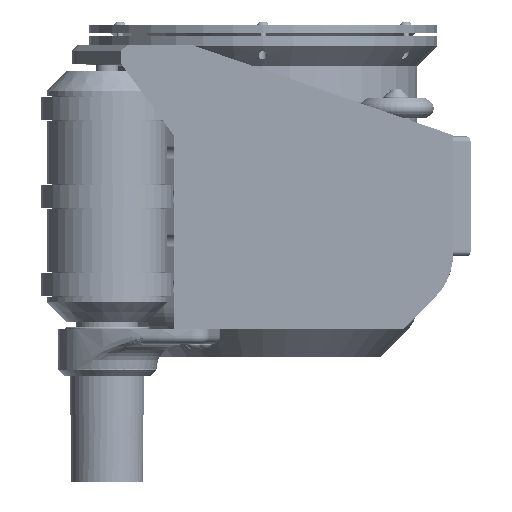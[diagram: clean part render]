
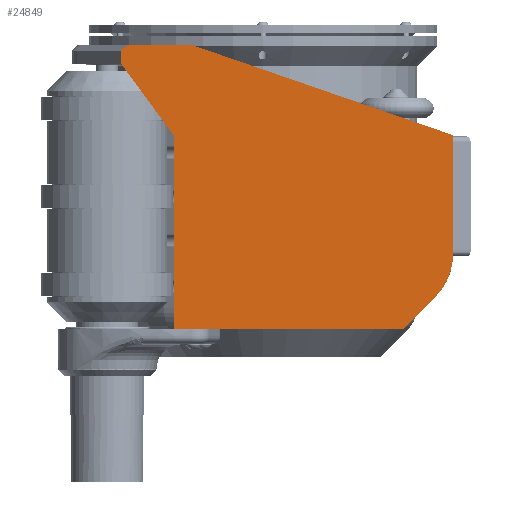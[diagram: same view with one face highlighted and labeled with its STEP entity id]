
A CAD part, front view. The second image highlights one B-rep face of the part: STEP entity #24849.
In plain terms, the highlighted planar face has unit normal (0, -1, 0).
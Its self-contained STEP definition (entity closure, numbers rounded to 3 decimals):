
#1177=PLANE('',#27251);
#3313=FACE_OUTER_BOUND('',#4912,.T.);
#4912=EDGE_LOOP('',(#21173,#21174,#21175,#21176,#21177,#21178,#21179,#21180,
#21181,#21182));
#6464=CIRCLE('',#27252,30.);
#7833=LINE('',#74307,#9200);
#7872=LINE('',#74898,#9239);
#7876=LINE('',#74905,#9243);
#7878=LINE('',#74908,#9245);
#7879=LINE('',#74913,#9246);
#7880=LINE('',#74915,#9247);
#7881=LINE('',#74916,#9248);
#7882=LINE('',#74918,#9249);
#7883=LINE('',#74921,#9250);
#9200=VECTOR('',#32636,10.);
#9239=VECTOR('',#32815,10.);
#9243=VECTOR('',#32821,10.);
#9245=VECTOR('',#32825,10.);
#9246=VECTOR('',#32830,10.);
#9247=VECTOR('',#32831,10.);
#9248=VECTOR('',#32832,10.);
#9249=VECTOR('',#32833,10.);
#9250=VECTOR('',#32836,10.);
#11246=VERTEX_POINT('',#74303);
#11248=VERTEX_POINT('',#74306);
#11324=VERTEX_POINT('',#74896);
#11325=VERTEX_POINT('',#74897);
#11326=VERTEX_POINT('',#74902);
#11327=VERTEX_POINT('',#74904);
#11329=VERTEX_POINT('',#74912);
#11330=VERTEX_POINT('',#74914);
#11331=VERTEX_POINT('',#74917);
#11332=VERTEX_POINT('',#74919);
#14590=EDGE_CURVE('',#11248,#11246,#7833,.T.);
#14698=EDGE_CURVE('',#11324,#11325,#7872,.T.);
#14702=EDGE_CURVE('',#11326,#11327,#7876,.T.);
#14704=EDGE_CURVE('',#11325,#11326,#7878,.T.);
#14706=EDGE_CURVE('',#11324,#11329,#7879,.T.);
#14707=EDGE_CURVE('',#11329,#11330,#7880,.T.);
#14708=EDGE_CURVE('',#11248,#11330,#7881,.T.);
#14709=EDGE_CURVE('',#11331,#11246,#7882,.T.);
#14710=EDGE_CURVE('',#11332,#11331,#6464,.T.);
#14711=EDGE_CURVE('',#11332,#11327,#7883,.T.);
#21173=ORIENTED_EDGE('',*,*,#14698,.F.);
#21174=ORIENTED_EDGE('',*,*,#14706,.T.);
#21175=ORIENTED_EDGE('',*,*,#14707,.T.);
#21176=ORIENTED_EDGE('',*,*,#14708,.F.);
#21177=ORIENTED_EDGE('',*,*,#14590,.T.);
#21178=ORIENTED_EDGE('',*,*,#14709,.F.);
#21179=ORIENTED_EDGE('',*,*,#14710,.F.);
#21180=ORIENTED_EDGE('',*,*,#14711,.T.);
#21181=ORIENTED_EDGE('',*,*,#14702,.F.);
#21182=ORIENTED_EDGE('',*,*,#14704,.F.);
#24849=ADVANCED_FACE('',(#3313),#1177,.T.);
#27251=AXIS2_PLACEMENT_3D('',#74911,#32828,#32829);
#27252=AXIS2_PLACEMENT_3D('',#74920,#32834,#32835);
#32636=DIRECTION('',(1.,0.,0.));
#32815=DIRECTION('',(0.756,0.,0.655));
#32821=DIRECTION('',(0.945,0.,-0.327));
#32825=DIRECTION('',(1.,0.,0.));
#32828=DIRECTION('center_axis',(0.,-1.,0.));
#32829=DIRECTION('ref_axis',(-1.,0.,0.));
#32830=DIRECTION('',(0.,0.,-1.));
#32831=DIRECTION('',(0.593,0.,-0.805));
#32832=DIRECTION('',(0.,0.,1.));
#32833=DIRECTION('',(-0.707,0.,-0.707));
#32834=DIRECTION('center_axis',(0.,1.,0.));
#32835=DIRECTION('ref_axis',(0.924,0.,-0.383));
#32836=DIRECTION('',(0.,0.,1.));
#74303=CARTESIAN_POINT('',(70.07,-125.,13.604));
#74306=CARTESIAN_POINT('',(-44.537,-125.,13.604));
#74307=CARTESIAN_POINT('',(-44.537,-125.,13.604));
#74896=CARTESIAN_POINT('',(-70.872,-125.,152.854));
#74897=CARTESIAN_POINT('',(-67.408,-125.,155.854));
#74898=CARTESIAN_POINT('',(-62.74,-125.,159.897));
#74902=CARTESIAN_POINT('',(-35.872,-125.,155.854));
#74904=CARTESIAN_POINT('',(95.07,-125.,110.604));
#74905=CARTESIAN_POINT('',(-35.872,-125.,155.854));
#74908=CARTESIAN_POINT('',(-70.872,-125.,155.854));
#74911=CARTESIAN_POINT('Origin',(-35.872,-125.,155.854));
#74912=CARTESIAN_POINT('',(-70.872,-125.,146.354));
#74913=CARTESIAN_POINT('',(-70.872,-125.,155.854));
#74914=CARTESIAN_POINT('',(-44.537,-125.,110.604));
#74915=CARTESIAN_POINT('',(-70.872,-125.,146.354));
#74916=CARTESIAN_POINT('',(-44.537,-125.,13.604));
#74917=CARTESIAN_POINT('',(86.283,-125.,29.818));
#74918=CARTESIAN_POINT('',(85.397,-125.,28.931));
#74919=CARTESIAN_POINT('',(95.07,-125.,51.031));
#74920=CARTESIAN_POINT('Origin',(65.07,-125.,51.031));
#74921=CARTESIAN_POINT('',(95.07,-125.,13.604));
